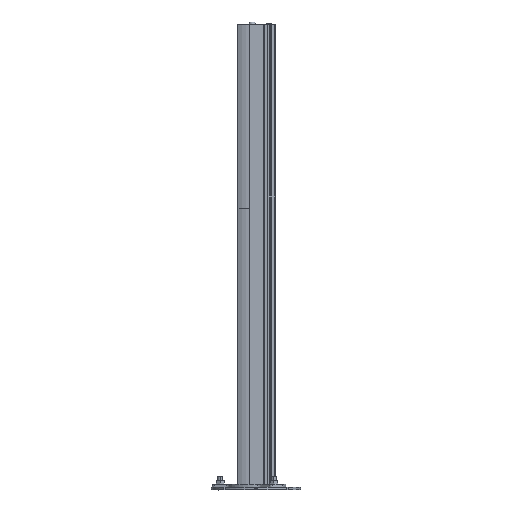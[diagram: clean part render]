
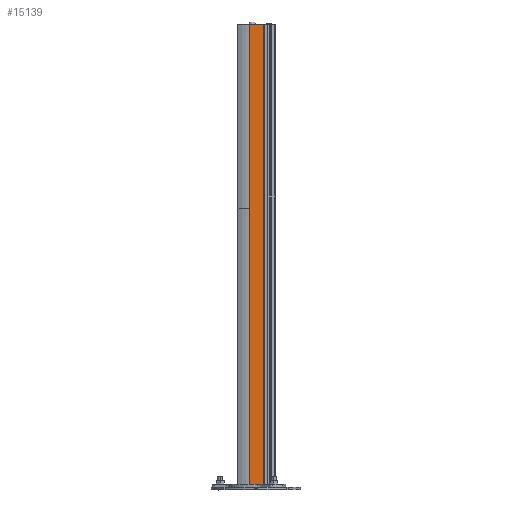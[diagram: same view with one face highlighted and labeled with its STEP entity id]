
A CAD part, left-side view. The second image highlights one B-rep face of the part: STEP entity #15139.
In plain terms, the highlighted planar face has unit normal (-1, 0, 0).
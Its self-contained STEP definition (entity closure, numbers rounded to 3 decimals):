
#4008=CARTESIAN_POINT('',(-337.654,-66.035,
917.));
#8064=DIRECTION('',(0.,1.,0.));
#8065=VECTOR('',#8064,30.399);
#8066=CARTESIAN_POINT('',(-337.654,-66.035,
917.));
#8067=LINE('',#8066,#8065);
#8071=DIRECTION('',(0.,0.,-1.));
#8072=VECTOR('',#8071,1000.);
#8073=CARTESIAN_POINT('',(-337.654,-66.035,
917.));
#8074=LINE('',#8073,#8072);
#8078=DIRECTION('',(0.,1.,0.));
#8079=VECTOR('',#8078,30.399);
#8080=CARTESIAN_POINT('',(-337.654,-66.035,
-83.));
#8081=LINE('',#8080,#8079);
#8085=DIRECTION('',(0.,0.,1.));
#8086=VECTOR('',#8085,1000.);
#8087=CARTESIAN_POINT('',(-337.654,-35.636,
-83.));
#8088=LINE('',#8087,#8086);
#11734=VERTEX_POINT('',#4008);
#11797=CARTESIAN_POINT('',(-337.654,-35.636,
-83.));
#11799=VERTEX_POINT('',#11797);
#11986=CARTESIAN_POINT('',(-337.654,-66.035,
-83.));
#11988=VERTEX_POINT('',#11986);
#12007=CARTESIAN_POINT('',(-337.654,-35.636,
917.));
#12008=VERTEX_POINT('',#12007);
#15126=CARTESIAN_POINT('',(-337.654,-50.836,
417.));
#15127=DIRECTION('',(1.,0.,0.));
#15128=DIRECTION('',(0.,1.,0.));
#15129=AXIS2_PLACEMENT_3D('',#15126,#15127,#15128);
#15130=PLANE('',#15129);
#15131=ORIENTED_EDGE('',*,*,#13441,.F.);
#15133=ORIENTED_EDGE('',*,*,#15132,.T.);
#15134=ORIENTED_EDGE('',*,*,#13800,.T.);
#15136=ORIENTED_EDGE('',*,*,#15135,.T.);
#15137=EDGE_LOOP('',(#15131,#15133,#15134,#15136));
#15138=FACE_OUTER_BOUND('',#15137,.F.);
#15139=ADVANCED_FACE('',(#15138),#15130,.F.);
#13441=EDGE_CURVE('',#11734,#12008,#8067,.T.);
#13800=EDGE_CURVE('',#11988,#11799,#8081,.T.);
#15132=EDGE_CURVE('',#11734,#11988,#8074,.T.);
#15135=EDGE_CURVE('',#11799,#12008,#8088,.T.);
